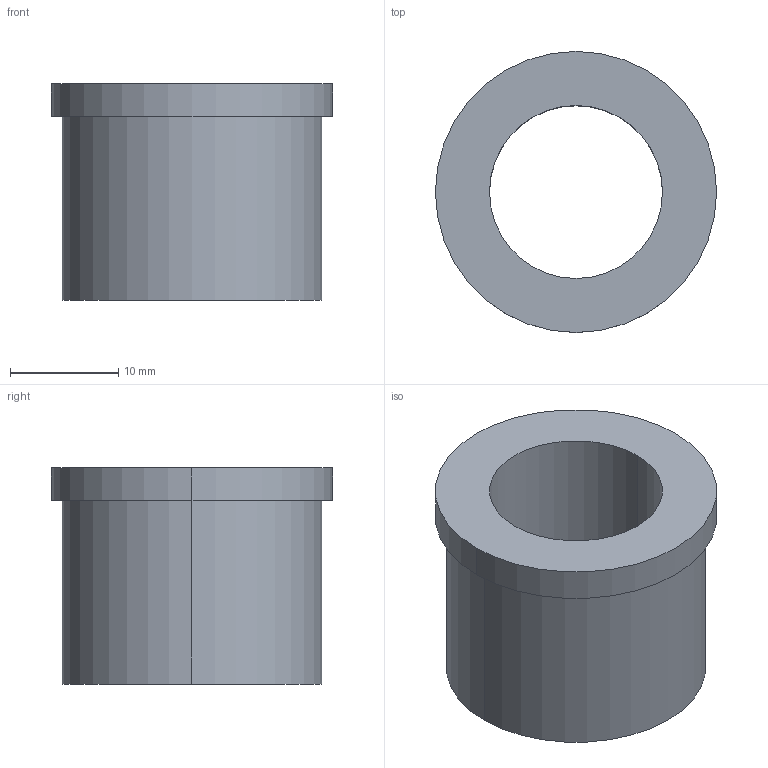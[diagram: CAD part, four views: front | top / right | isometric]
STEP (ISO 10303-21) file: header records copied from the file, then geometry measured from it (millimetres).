
FILE_DESCRIPTION(/* description */ (''),/* implementation_level */ '2;1');
FILE_NAME(/* name */ '3d_tgbf16-20_00361_r00.stp',/* time_stamp */ '2011-01-10T14:09:04+09:00',/* author */ ('MISUMI'),/* organization */ (''),/* preprocessor_version */ 'ST-DEVELOPER v11',/* originating_system */ 'UGS - NX 5.0',/* authorisation */ '');
FILE_SCHEMA (('CONFIG_CONTROL_DESIGN'));
Length unit declared in the file: millimetre
Products named in the file (1): 3d_tgbf16-20_00361_r00
Bounding box: 26 x 26 x 20 mm (x, y, z)
Volume: 5262.2 mm3; surface area: 3191.9 mm2
Topology: 1 solids, 1 shells, 9 faces, 18 edges, 12 vertices
Faces by surface type: cylinder 6, plane 3
Entity records: 334 total; most frequent: DIRECTION 50, CARTESIAN_POINT 40, ORIENTED_EDGE 36, AXIS2_PLACEMENT_3D 22, EDGE_CURVE 18, EDGE_LOOP 12, CIRCLE 12, VERTEX_POINT 12
